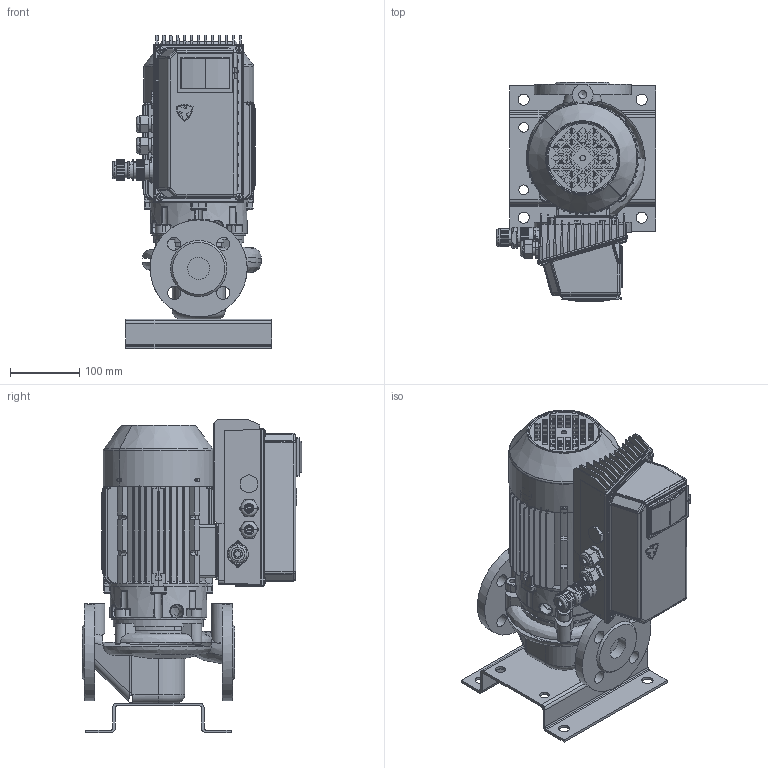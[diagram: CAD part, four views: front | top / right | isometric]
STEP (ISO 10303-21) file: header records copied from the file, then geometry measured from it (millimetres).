
FILE_DESCRIPTION(('STEP AP214'),'1');
FILE_NAME('export.stp','2018-05-31T12:25:29',(' '),(' '),'Spatial InterOp 3D',' ',' ');
FILE_SCHEMA(('AUTOMOTIVE_DESIGN { 1 0 10303 214 1 1 1 1 }'));
Length unit declared in the file: millimetre
Products named in the file (37): W_L32A2SC650KP; V_TLL32AAP15AKP25; V_PPL32A; V_JALKA35973; 160018; 160002_Valu; V_MKP80_1_N12_650; 160141; 160137; 160039___; 160040___; 160133; P100518; P100576; P100453; P100467; DIN_7985-M5x12; P100515; P100512; P100513; P100514; P100509; ontto_sylinteri; DIN_7985-M3x12; P100569; P100567; P100566; P100565; P100606; P100607; P100580; P101504; P101332; PART3; PART4
Assembly tree (41 placements, depth 4):
  W_L32A2SC650KP
    V_TLL32AAP15AKP25
    V_PPL32A
    V_JALKA35973
    V_MKP80_1_N12_650
      160018
        160002_Valu
      160141
        160137
      160039___
      160040___
      160133
    P100518
      P100576
      P100453
      P100467
      DIN_7985-M5x12  x4
      P100515
        P100512
        P100513
        P100514
        P100509
        ontto_sylinteri
      DIN_7985-M3x12  x2
      P100569
      P100567
        P100566
        P100565
        ontto_sylinteri
      P100606
        P100607
        P100565
        ontto_sylinteri
      P100580
      P101504
      P101332
        PART3
        PART4
Bounding box: 229.34 x 317.04 x 452.28 mm (x, y, z)
Volume: 1745703.6 mm3; surface area: 1224389.3 mm2
Topology: 32 solids, 33 shells, 4534 faces, 11980 edges, 7548 vertices
Faces by surface type: plane 1838, cylinder 1454, torus 438, bspline 437, cone 216, sphere 151
Full cylindrical faces by diameter (mm): 8.5 x1, 11.445 x2, 19 x8, 30 x2, 32 x2, 106 x1, 140 x2
Entity records: 194537 total; most frequent: CARTESIAN_POINT 58953, ORIENTED_EDGE 23090, DIRECTION 22226, EDGE_CURVE 11585, AXIS2_PLACEMENT_3D 8401, VERTEX_POINT 7364, LINE 5424, VECTOR 5424
